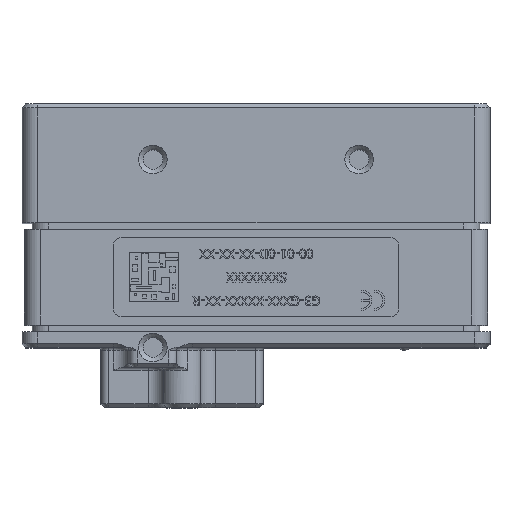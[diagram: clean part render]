
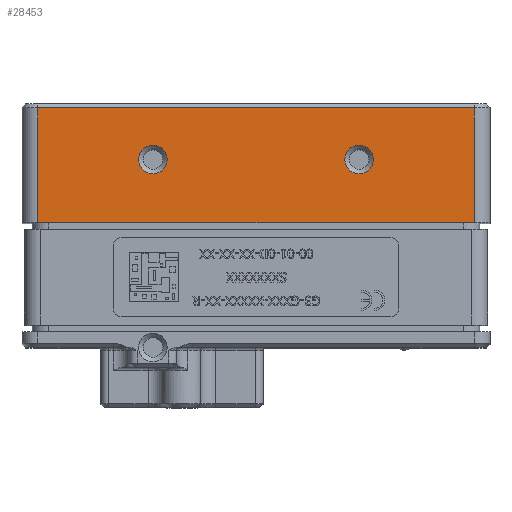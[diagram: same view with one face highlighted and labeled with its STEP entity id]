
A CAD part, top view. The second image highlights one B-rep face of the part: STEP entity #28453.
In plain terms, the highlighted planar face has unit normal (0, 0, 1).
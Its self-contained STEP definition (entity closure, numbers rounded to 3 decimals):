
#1181=CIRCLE('',#30185,1.8);
#1182=CIRCLE('',#30186,1.8);
#1183=CIRCLE('',#30187,1.8);
#1184=CIRCLE('',#30188,1.8);
#1654=FACE_BOUND('',#3484,.T.);
#1655=FACE_BOUND('',#3485,.T.);
#1902=FACE_OUTER_BOUND('',#3483,.T.);
#3483=EDGE_LOOP('',(#18357,#18358,#18359,#18360));
#3484=EDGE_LOOP('',(#18361,#18362));
#3485=EDGE_LOOP('',(#18363,#18364));
#5292=LINE('',#39734,#8273);
#5293=LINE('',#39737,#8274);
#5294=LINE('',#39739,#8275);
#5295=LINE('',#39740,#8276);
#8273=VECTOR('',#32636,10.);
#8274=VECTOR('',#32639,10.);
#8275=VECTOR('',#32640,10.);
#8276=VECTOR('',#32641,10.);
#11293=VERTEX_POINT('',#39730);
#11294=VERTEX_POINT('',#39732);
#11295=VERTEX_POINT('',#39736);
#11296=VERTEX_POINT('',#39738);
#11297=VERTEX_POINT('',#39741);
#11298=VERTEX_POINT('',#39742);
#11299=VERTEX_POINT('',#39745);
#11300=VERTEX_POINT('',#39746);
#14047=EDGE_CURVE('',#11293,#11294,#5292,.T.);
#14048=EDGE_CURVE('',#11293,#11295,#5293,.T.);
#14049=EDGE_CURVE('',#11296,#11294,#5294,.T.);
#14050=EDGE_CURVE('',#11295,#11296,#5295,.T.);
#14051=EDGE_CURVE('',#11297,#11298,#1181,.T.);
#14052=EDGE_CURVE('',#11298,#11297,#1182,.T.);
#14053=EDGE_CURVE('',#11299,#11300,#1183,.T.);
#14054=EDGE_CURVE('',#11300,#11299,#1184,.T.);
#18357=ORIENTED_EDGE('',*,*,#14048,.F.);
#18358=ORIENTED_EDGE('',*,*,#14047,.T.);
#18359=ORIENTED_EDGE('',*,*,#14049,.F.);
#18360=ORIENTED_EDGE('',*,*,#14050,.F.);
#18361=ORIENTED_EDGE('',*,*,#14051,.T.);
#18362=ORIENTED_EDGE('',*,*,#14052,.T.);
#18363=ORIENTED_EDGE('',*,*,#14053,.T.);
#18364=ORIENTED_EDGE('',*,*,#14054,.T.);
#25858=PLANE('',#30184);
#28453=ADVANCED_FACE('',(#1902,#1654,#1655),#25858,.T.);
#30184=AXIS2_PLACEMENT_3D('',#39735,#32637,#32638);
#30185=AXIS2_PLACEMENT_3D('',#39743,#32642,#32643);
#30186=AXIS2_PLACEMENT_3D('',#39744,#32644,#32645);
#30187=AXIS2_PLACEMENT_3D('',#39747,#32646,#32647);
#30188=AXIS2_PLACEMENT_3D('',#39748,#32648,#32649);
#32636=DIRECTION('',(0.,-1.,0.));
#32637=DIRECTION('center_axis',(0.,0.,1.));
#32638=DIRECTION('ref_axis',(1.,0.,0.));
#32639=DIRECTION('',(1.,0.,0.));
#32640=DIRECTION('',(-1.,0.,0.));
#32641=DIRECTION('',(0.,-1.,0.));
#32642=DIRECTION('center_axis',(0.,0.,-1.));
#32643=DIRECTION('ref_axis',(-1.,0.,0.));
#32644=DIRECTION('center_axis',(0.,0.,-1.));
#32645=DIRECTION('ref_axis',(-1.,0.,0.));
#32646=DIRECTION('center_axis',(0.,0.,-1.));
#32647=DIRECTION('ref_axis',(-1.,0.,0.));
#32648=DIRECTION('center_axis',(0.,0.,-1.));
#32649=DIRECTION('ref_axis',(-1.,0.,0.));
#39730=CARTESIAN_POINT('',(-27.5,13.533,25.898));
#39732=CARTESIAN_POINT('',(-27.5,-0.942,25.898));
#39734=CARTESIAN_POINT('',(-27.5,8.033,25.898));
#39735=CARTESIAN_POINT('Origin',(-27.5,8.033,25.898));
#39736=CARTESIAN_POINT('',(27.5,13.533,25.898));
#39737=CARTESIAN_POINT('',(-13.75,13.533,25.898));
#39738=CARTESIAN_POINT('',(27.5,-0.942,25.898));
#39739=CARTESIAN_POINT('',(27.5,-0.942,25.898));
#39740=CARTESIAN_POINT('',(27.5,8.033,25.898));
#39741=CARTESIAN_POINT('',(11.2,7.033,25.898));
#39742=CARTESIAN_POINT('',(14.8,7.033,25.898));
#39743=CARTESIAN_POINT('Origin',(13.,7.033,25.898));
#39744=CARTESIAN_POINT('Origin',(13.,7.033,25.898));
#39745=CARTESIAN_POINT('',(-14.8,7.033,25.898));
#39746=CARTESIAN_POINT('',(-11.2,7.033,25.898));
#39747=CARTESIAN_POINT('Origin',(-13.,7.033,25.898));
#39748=CARTESIAN_POINT('Origin',(-13.,7.033,25.898));
